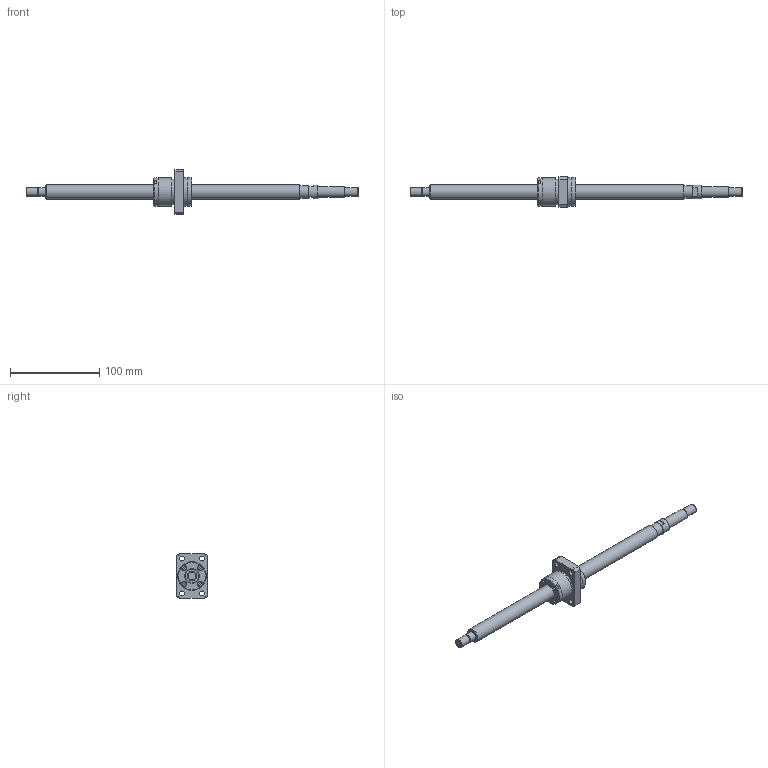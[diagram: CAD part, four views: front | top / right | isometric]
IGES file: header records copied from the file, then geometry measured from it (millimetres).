
Start section: Data from Parasolid IGES Translator 26.0.171, Copyright(c) 2006 Siemens PLM Software. All Rights Reserved.
Global section: file name: BNK1616-3.6G0+371LC5Y(1630).igs; native system: By Siemens PLM Incorporated; preprocessor: XPlus GENERIC/IGES 26.0.171; author: Noname; organization: Noname; date: 20240709.092914; units: millimetre
Bounding box: 371 x 34 x 50 mm (x, y, z)
Surface area: 29264.1 mm2 (no closed solid volume)
Topology: 0 solids, 0 shells, 139 faces, 647 edges, 588 vertices
Faces by surface type: extrusion 75, revolution 64
